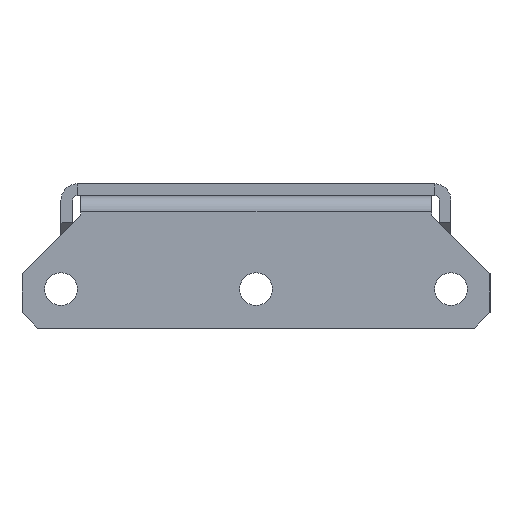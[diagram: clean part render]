
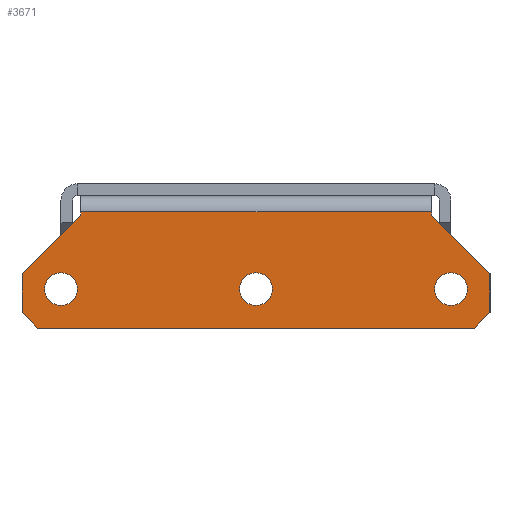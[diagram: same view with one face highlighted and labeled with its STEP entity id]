
A CAD part, left-side view. The second image highlights one B-rep face of the part: STEP entity #3671.
In plain terms, the highlighted planar face has unit normal (-1, 0, 0).
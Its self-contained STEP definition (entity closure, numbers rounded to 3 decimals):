
#2131=CARTESIAN_POINT(' ',(0.,-22.5,-2.1));
#2132=VERTEX_POINT(' ',#2131);
#2176=CARTESIAN_POINT(' ',(0.,22.5,-2.1));
#2177=VERTEX_POINT(' ',#2176);
#2191=CARTESIAN_POINT(' ',(0.,-22.5,-2.1));
#2196=DIRECTION(' ',(0.,1.,0.));
#2201=VECTOR(' ',#2196,1.);
#2206=LINE('',#2191,#2201);
#2211=EDGE_CURVE(' ',#2132,#2177,#2206,.T.);
#2271=CARTESIAN_POINT(' ',(0.,-22.5,-2.5));
#2276=DIRECTION(' ',(0.,0.,1.));
#2281=VECTOR(' ',#2276,1.);
#2286=LINE('',#2271,#2281);
#2291=CARTESIAN_POINT(' ',(0.,-22.5,-2.5));
#2292=VERTEX_POINT(' ',#2291);
#2296=EDGE_CURVE(' ',#2292,#2132,#2286,.T.);
#3036=CARTESIAN_POINT(' ',(0.,22.5,-2.5));
#3037=VERTEX_POINT(' ',#3036);
#3051=CARTESIAN_POINT(' ',(0.,22.5,-2.5));
#3056=DIRECTION(' ',(0.,0.,1.));
#3061=VECTOR(' ',#3056,1.);
#3066=LINE('',#3051,#3061);
#3071=EDGE_CURVE(' ',#3037,#2177,#3066,.T.);
#3111=DIRECTION(' ',(-1.,-0.,-0.));
#3116=CARTESIAN_POINT(' ',(0.,-30.,-2.1));
#3121=DIRECTION(' ',(-0.,1.,0.));
#3126=AXIS2_PLACEMENT_3D(' ',#3116,#3111,#3121);
#3131=PLANE('NONE',#3126);
#3136=CARTESIAN_POINT(' ',(0.,28.,-17.));
#3141=DIRECTION(' ',(0.,-1.,0.));
#3146=VECTOR(' ',#3141,1.);
#3151=LINE('',#3136,#3146);
#3156=CARTESIAN_POINT(' ',(0.,28.,-17.));
#3157=VERTEX_POINT(' ',#3156);
#3161=CARTESIAN_POINT(' ',(0.,-28.,-17.));
#3162=VERTEX_POINT(' ',#3161);
#3166=EDGE_CURVE(' ',#3157,#3162,#3151,.T.);
#3171=ORIENTED_EDGE(' ',*,*,#3166,.T.);
#3176=CARTESIAN_POINT(' ',(0.,-28.,-17.));
#3181=DIRECTION(' ',(0.,-0.707,0.707));
#3186=VECTOR(' ',#3181,1.);
#3191=LINE('',#3176,#3186);
#3196=CARTESIAN_POINT(' ',(0.,-30.,-15.));
#3197=VERTEX_POINT(' ',#3196);
#3201=EDGE_CURVE(' ',#3162,#3197,#3191,.T.);
#3206=ORIENTED_EDGE(' ',*,*,#3201,.T.);
#3211=CARTESIAN_POINT(' ',(0.,-30.,-15.));
#3216=DIRECTION(' ',(0.,0.,1.));
#3221=VECTOR(' ',#3216,1.);
#3226=LINE('',#3211,#3221);
#3231=CARTESIAN_POINT(' ',(0.,-30.,-10.));
#3232=VERTEX_POINT(' ',#3231);
#3236=EDGE_CURVE(' ',#3197,#3232,#3226,.T.);
#3241=ORIENTED_EDGE(' ',*,*,#3236,.T.);
#3246=CARTESIAN_POINT(' ',(0.,-30.,-10.));
#3251=DIRECTION(' ',(0.,0.707,0.707));
#3256=VECTOR(' ',#3251,1.);
#3261=LINE('',#3246,#3256);
#3266=EDGE_CURVE(' ',#3232,#2292,#3261,.T.);
#3271=ORIENTED_EDGE(' ',*,*,#3266,.T.);
#3276=ORIENTED_EDGE(' ',*,*,#2296,.T.);
#3281=ORIENTED_EDGE(' ',*,*,#2211,.T.);
#3286=ORIENTED_EDGE(' ',*,*,#3071,.F.);
#3291=CARTESIAN_POINT(' ',(0.,22.5,-2.5));
#3296=DIRECTION(' ',(0.,0.707,-0.707));
#3301=VECTOR(' ',#3296,1.);
#3306=LINE('',#3291,#3301);
#3311=CARTESIAN_POINT(' ',(0.,30.,-10.));
#3312=VERTEX_POINT(' ',#3311);
#3316=EDGE_CURVE(' ',#3037,#3312,#3306,.T.);
#3321=ORIENTED_EDGE(' ',*,*,#3316,.T.);
#3326=CARTESIAN_POINT(' ',(0.,30.,-15.));
#3331=DIRECTION(' ',(0.,0.,1.));
#3336=VECTOR(' ',#3331,1.);
#3341=LINE('',#3326,#3336);
#3346=CARTESIAN_POINT(' ',(0.,30.,-15.));
#3347=VERTEX_POINT(' ',#3346);
#3351=EDGE_CURVE(' ',#3347,#3312,#3341,.T.);
#3356=ORIENTED_EDGE(' ',*,*,#3351,.F.);
#3361=CARTESIAN_POINT(' ',(0.,30.,-15.));
#3366=DIRECTION(' ',(0.,-0.707,-0.707));
#3371=VECTOR(' ',#3366,1.);
#3376=LINE('',#3361,#3371);
#3381=EDGE_CURVE(' ',#3347,#3157,#3376,.T.);
#3386=ORIENTED_EDGE(' ',*,*,#3381,.T.);
#3391=EDGE_LOOP(' ',(#3171,#3206,#3241,#3271,#3276,#3281,#3286,#3321,#3356,#3386));
#3396=FACE_OUTER_BOUND(' ',#3391,.T.);
#3401=CARTESIAN_POINT(' ',(0.,25.,-12.));
#3406=DIRECTION(' ',(-1.,0.,0.));
#3411=DIRECTION(' ',(0.,0.,1.));
#3416=AXIS2_PLACEMENT_3D(' ',#3401,#3406,#3411);
#3421=CIRCLE('',#3416,2.1);
#3426=CARTESIAN_POINT(' ',(0.,25.,-9.9));
#3427=VERTEX_POINT(' ',#3426);
#3431=CARTESIAN_POINT(' ',(0.,25.,-14.1));
#3432=VERTEX_POINT(' ',#3431);
#3436=EDGE_CURVE(' ',#3427,#3432,#3421,.T.);
#3441=ORIENTED_EDGE(' ',*,*,#3436,.F.);
#3446=CARTESIAN_POINT(' ',(0.,25.,-12.));
#3451=DIRECTION(' ',(-1.,0.,0.));
#3456=DIRECTION(' ',(0.,0.,-1.));
#3461=AXIS2_PLACEMENT_3D(' ',#3446,#3451,#3456);
#3466=CIRCLE('',#3461,2.1);
#3471=EDGE_CURVE(' ',#3432,#3427,#3466,.T.);
#3476=ORIENTED_EDGE(' ',*,*,#3471,.F.);
#3481=EDGE_LOOP(' ',(#3441,#3476));
#3486=FACE_BOUND(' ',#3481,.T.);
#3491=CARTESIAN_POINT(' ',(0.,0.,-12.));
#3496=DIRECTION(' ',(-1.,0.,0.));
#3501=DIRECTION(' ',(0.,0.,1.));
#3506=AXIS2_PLACEMENT_3D(' ',#3491,#3496,#3501);
#3511=CIRCLE('',#3506,2.1);
#3516=CARTESIAN_POINT(' ',(0.,0.,-9.9));
#3517=VERTEX_POINT(' ',#3516);
#3521=CARTESIAN_POINT(' ',(0.,0.,-14.1));
#3522=VERTEX_POINT(' ',#3521);
#3526=EDGE_CURVE(' ',#3517,#3522,#3511,.T.);
#3531=ORIENTED_EDGE(' ',*,*,#3526,.F.);
#3536=CARTESIAN_POINT(' ',(0.,0.,-12.));
#3541=DIRECTION(' ',(-1.,0.,0.));
#3546=DIRECTION(' ',(0.,0.,-1.));
#3551=AXIS2_PLACEMENT_3D(' ',#3536,#3541,#3546);
#3556=CIRCLE('',#3551,2.1);
#3561=EDGE_CURVE(' ',#3522,#3517,#3556,.T.);
#3566=ORIENTED_EDGE(' ',*,*,#3561,.F.);
#3571=EDGE_LOOP(' ',(#3531,#3566));
#3576=FACE_BOUND(' ',#3571,.T.);
#3581=CARTESIAN_POINT(' ',(0.,-25.,-12.));
#3586=DIRECTION(' ',(-1.,0.,0.));
#3591=DIRECTION(' ',(0.,0.,1.));
#3596=AXIS2_PLACEMENT_3D(' ',#3581,#3586,#3591);
#3601=CIRCLE('',#3596,2.1);
#3606=CARTESIAN_POINT(' ',(0.,-25.,-9.9));
#3607=VERTEX_POINT(' ',#3606);
#3611=CARTESIAN_POINT(' ',(0.,-25.,-14.1));
#3612=VERTEX_POINT(' ',#3611);
#3616=EDGE_CURVE(' ',#3607,#3612,#3601,.T.);
#3621=ORIENTED_EDGE(' ',*,*,#3616,.F.);
#3626=CARTESIAN_POINT(' ',(0.,-25.,-12.));
#3631=DIRECTION(' ',(-1.,0.,0.));
#3636=DIRECTION(' ',(0.,0.,-1.));
#3641=AXIS2_PLACEMENT_3D(' ',#3626,#3631,#3636);
#3646=CIRCLE('',#3641,2.1);
#3651=EDGE_CURVE(' ',#3612,#3607,#3646,.T.);
#3656=ORIENTED_EDGE(' ',*,*,#3651,.F.);
#3661=EDGE_LOOP(' ',(#3621,#3656));
#3666=FACE_BOUND(' ',#3661,.T.);
#3671=ADVANCED_FACE('NONE',(#3396,#3486,#3576,#3666),#3131,.T.);
